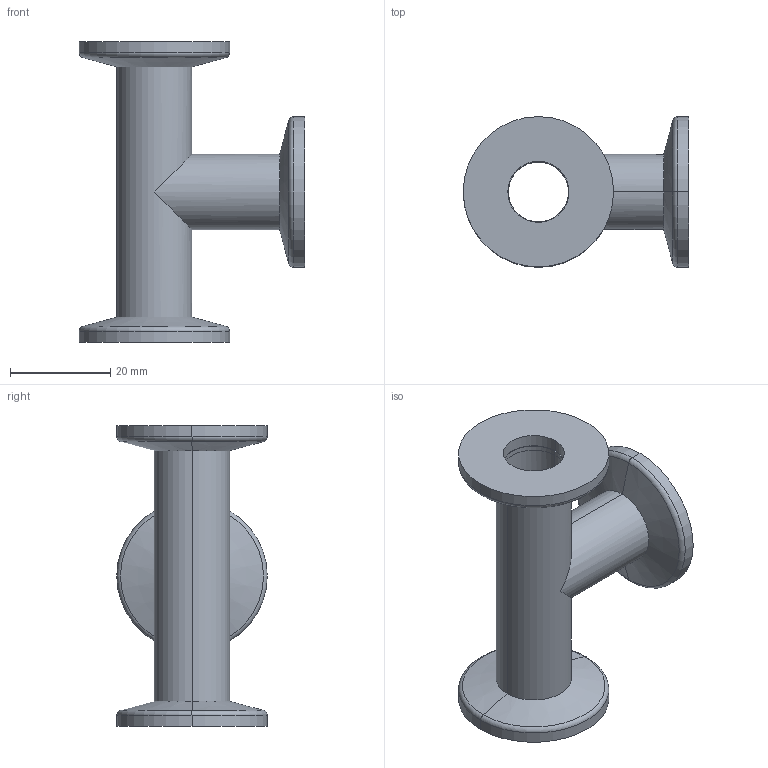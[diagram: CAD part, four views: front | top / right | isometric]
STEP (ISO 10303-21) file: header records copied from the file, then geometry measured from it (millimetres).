
FILE_DESCRIPTION (( 'STEP AP214' ), '1' );
FILE_NAME ('W3TS10.STEP', '2020-08-20T12:05:42', ( '' ), ( '' ), 'SwSTEP 2.0', 'SolidWorks 2020', '' );
FILE_SCHEMA (( 'AUTOMOTIVE_DESIGN' ));
Length unit declared in the file: millimetre
Products named in the file (1): W3TS10
Bounding box: 45 x 30 x 60 mm (x, y, z)
Volume: 11308.3 mm3; surface area: 11392.2 mm2
Topology: 5 solids, 5 shells, 60 faces, 132 edges, 82 vertices
Faces by surface type: cylinder 32, plane 16, torus 6, cone 6
Entity records: 1758 total; most frequent: CARTESIAN_POINT 323, DIRECTION 310, ORIENTED_EDGE 264, AXIS2_PLACEMENT_3D 133, EDGE_CURVE 132, VERTEX_POINT 82, EDGE_LOOP 72, CIRCLE 72
